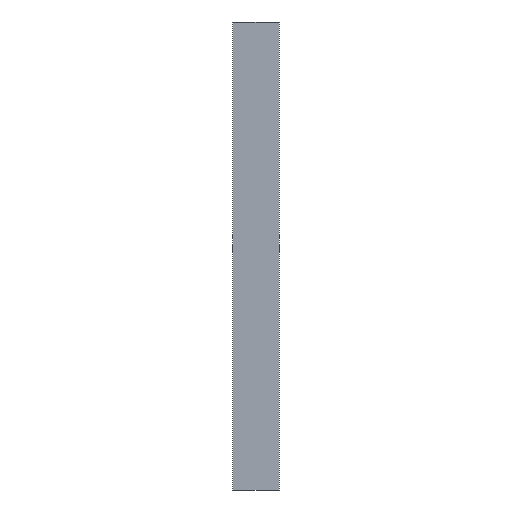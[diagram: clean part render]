
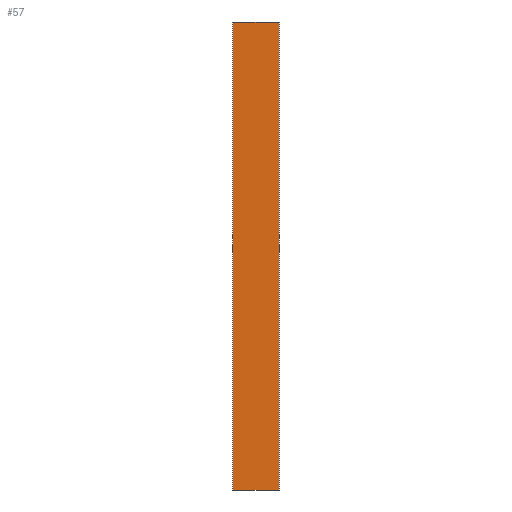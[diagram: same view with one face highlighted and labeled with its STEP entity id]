
A CAD part, front view. The second image highlights one B-rep face of the part: STEP entity #57.
In plain terms, the highlighted planar face has unit normal (0, -1, 0).
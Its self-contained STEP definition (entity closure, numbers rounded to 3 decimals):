
#1 = EDGE_CURVE ( 'NONE', #134, #175, #155, .T. ) ;
#3 = LINE ( 'NONE', #67, #51 ) ;
#5 = VECTOR ( 'NONE', #24, 1000. ) ;
#15 = CARTESIAN_POINT ( 'NONE',  ( 0., 0., -1000. ) ) ;
#24 = DIRECTION ( 'NONE',  ( 1., 0., 0. ) ) ;
#27 = LINE ( 'NONE', #86, #5 ) ;
#29 = EDGE_CURVE ( 'NONE', #158, #97, #27, .T. ) ;
#39 = PLANE ( 'NONE',  #157 ) ;
#44 = EDGE_CURVE ( 'NONE', #175, #97, #3, .T. ) ;
#51 = VECTOR ( 'NONE', #111, 1000. ) ;
#57 = ADVANCED_FACE ( 'NONE', ( #170 ), #39, .T. ) ;
#60 = CARTESIAN_POINT ( 'NONE',  ( 0., 0., -1000. ) ) ;
#64 = CARTESIAN_POINT ( 'NONE',  ( 0., 0., -1000. ) ) ;
#67 = CARTESIAN_POINT ( 'NONE',  ( 100., 0., -1000. ) ) ;
#76 = CARTESIAN_POINT ( 'NONE',  ( 0., 0., 0. ) ) ;
#77 = EDGE_CURVE ( 'NONE', #134, #158, #117, .T. ) ;
#80 = EDGE_LOOP ( 'NONE', ( #186, #187, #149, #174 ) ) ;
#81 = VECTOR ( 'NONE', #137, 1000. ) ;
#86 = CARTESIAN_POINT ( 'NONE',  ( 0., 0., 0. ) ) ;
#94 = CARTESIAN_POINT ( 'NONE',  ( 0., 0., -1000. ) ) ;
#97 = VERTEX_POINT ( 'NONE', #116 ) ;
#98 = VECTOR ( 'NONE', #133, 1000. ) ;
#111 = DIRECTION ( 'NONE',  ( 0., 0., 1. ) ) ;
#116 = CARTESIAN_POINT ( 'NONE',  ( 100., 0., 0. ) ) ;
#117 = LINE ( 'NONE', #64, #98 ) ;
#126 = DIRECTION ( 'NONE',  ( 0., 0., -1. ) ) ;
#133 = DIRECTION ( 'NONE',  ( 0., 0., 1. ) ) ;
#134 = VERTEX_POINT ( 'NONE', #60 ) ;
#137 = DIRECTION ( 'NONE',  ( 1., 0., 0. ) ) ;
#143 = CARTESIAN_POINT ( 'NONE',  ( 100., 0., -1000. ) ) ;
#149 = ORIENTED_EDGE ( 'NONE', *, *, #1, .T. ) ;
#151 = DIRECTION ( 'NONE',  ( 0., -1., 0. ) ) ;
#155 = LINE ( 'NONE', #15, #81 ) ;
#157 = AXIS2_PLACEMENT_3D ( 'NONE', #94, #151, #126 ) ;
#158 = VERTEX_POINT ( 'NONE', #76 ) ;
#170 = FACE_OUTER_BOUND ( 'NONE', #80, .T. ) ;
#174 = ORIENTED_EDGE ( 'NONE', *, *, #44, .T. ) ;
#175 = VERTEX_POINT ( 'NONE', #143 ) ;
#186 = ORIENTED_EDGE ( 'NONE', *, *, #29, .F. ) ;
#187 = ORIENTED_EDGE ( 'NONE', *, *, #77, .F. ) ;
